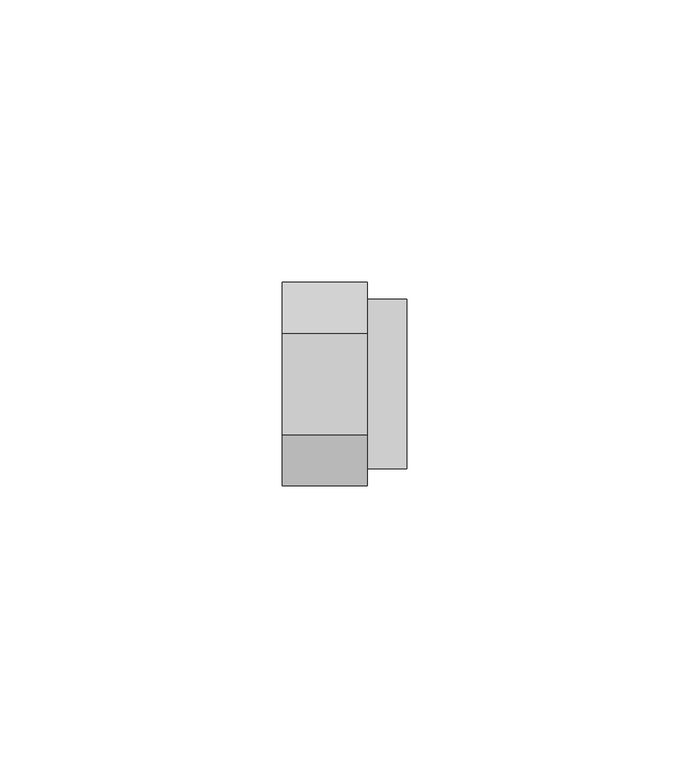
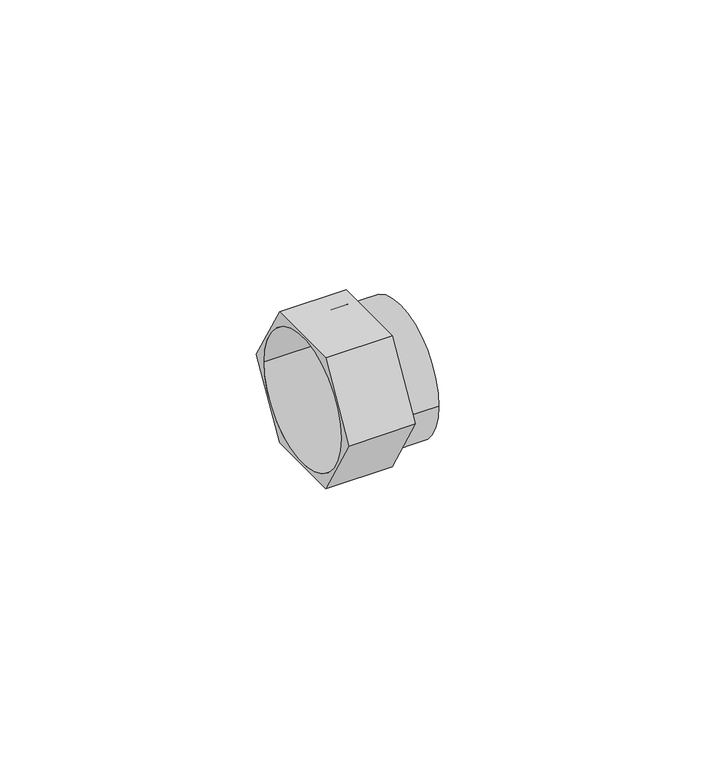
"""IFC4 building model written with IfcOpenShell, lengths in millimetres: pipe fitting geometry, БИР ПЕКС_КМП_Фитинг уплотнительный_Евроконус : Фитинг уплотнительный_Евроконус."""

import ifcopenshell
import ifcopenshell.guid

model = None  # the IFC model being written
_history = None  # IfcOwnerHistory: only IFC2X3 demands one
_inside = {}  # id of a spatial element -> (the spatial element, [elements in it])
_under = {}  # id of a project, library or spatial element -> (it, [spatial elements below it])
_declared = {}  # id of a project -> (the project, [libraries it declares])
_typed = {}  # id of a type object -> (the type object, [elements of that type])
_made_of = {}  # id of a material, layer set ... -> (it, [elements and type objects made of it])


def new_model(schema):
    """Start an empty IFC model of exactly this schema.

    Asked for "IFC4X3", IfcOpenShell would pick the latest addendum, in which some entities
    have other attributes; the version numbers below select the first issue.
    IFC2X3 requires an IfcOwnerHistory on every rooted entity: one is made here for all.
    """
    global model, _history
    if schema == "IFC4X3":
        model = ifcopenshell.file(schema_version=(4, 3, 0, 0))
    else:
        model = ifcopenshell.file(schema=schema)
    _inside.clear()
    _under.clear()
    _declared.clear()
    _typed.clear()
    _made_of.clear()
    _history = None
    if model.schema == "IFC2X3":
        org = make("IfcOrganization", Name="unknown")
        user = make(
            "IfcPersonAndOrganization",
            ThePerson=make("IfcPerson", FamilyName="unknown"),
            TheOrganization=org,
        )
        app = make(
            "IfcApplication",
            ApplicationDeveloper=org,
            Version="unknown",
            ApplicationFullName="unknown",
            ApplicationIdentifier="unknown",
        )
        _history = make(
            "IfcOwnerHistory",
            OwningUser=user,
            OwningApplication=app,
            ChangeAction="ADDED",
            CreationDate=0,
        )
    return model


def make(cls, **values):
    """One entity of the class cls with the attributes given. An attribute that is None is left unset."""
    return model.create_entity(
        cls, **{name: value for name, value in values.items() if value is not None}
    )


def rooted(cls, **values):
    """An entity with a GlobalId (a new one), such as an element, a storey or a relation."""
    return make(cls, GlobalId=ifcopenshell.guid.new(), OwnerHistory=_history, **values)


def si_unit(unit_type, name, prefix=None):
    """IfcSIUnit, for example si_unit("LENGTHUNIT", "METRE", prefix="MILLI")."""
    return make("IfcSIUnit", UnitType=unit_type, Prefix=prefix, Name=name)


def assignment(units):
    """IfcUnitAssignment: the units of a project."""
    return None if units is None else make("IfcUnitAssignment", Units=units)


def point(xyz):
    """IfcCartesianPoint."""
    return None if xyz is None else make("IfcCartesianPoint", Coordinates=xyz)


def direction(xyz):
    """IfcDirection."""
    return None if xyz is None else make("IfcDirection", DirectionRatios=xyz)


def frame(location, z_axis=None, x_axis=None):
    """IfcAxis2Placement3D, a coordinate frame: its origin and axes. An axis left out is left unset."""
    return make(
        "IfcAxis2Placement3D",
        Location=point(location),
        Axis=direction(z_axis),
        RefDirection=direction(x_axis),
    )


def frame_2d(location, x_axis=None):
    """IfcAxis2Placement2D, a coordinate frame in the plane: its origin and x axis."""
    return make(
        "IfcAxis2Placement2D", Location=point(location), RefDirection=direction(x_axis)
    )


def origin():
    """The frame at (0, 0, 0) with its axes left unset."""
    return frame((0.0, 0.0, 0.0))


def origin_2d():
    """The frame at (0, 0) in the plane with its x axis left unset."""
    return frame_2d((0.0, 0.0))


def place(relative_to, where):
    """IfcLocalPlacement: puts the frame where relative to a parent placement (None: the world)."""
    return make(
        "IfcLocalPlacement", PlacementRelTo=relative_to, RelativePlacement=where
    )


def context(
    kind, dimensions, precision=None, world=None, true_north=None, identifier=None
):
    """IfcGeometricRepresentationContext, for example the 3D "Model" context."""
    return make(
        "IfcGeometricRepresentationContext",
        ContextIdentifier=identifier,
        ContextType=kind,
        CoordinateSpaceDimension=dimensions,
        Precision=precision,
        WorldCoordinateSystem=world,
        TrueNorth=true_north,
    )


def project(units=None, contexts=None):
    """IfcProject with its units and contexts."""
    return rooted(
        "IfcProject",
        Name="project",
        RepresentationContexts=contexts,
        UnitsInContext=assignment(units),
    )


def spatial(cls, under=None, at=None, **own):
    """A site, building, storey or space (cls), placed at a placement, below another one or the project."""
    s = rooted(cls, ObjectPlacement=at, **own)
    if under is not None:
        _under.setdefault(under.id(), (under, []))[1].append(s)
    return s


def polyline(points):
    """IfcPolyline through the points."""
    return make("IfcPolyline", Points=[point(p) for p in points])


def circle_curve(where, radius):
    """IfcCircle in the frame where."""
    return make("IfcCircle", Position=where, Radius=radius)


def trimmed(basis, trim1, trim2, sense, master):
    """IfcTrimmedCurve: the piece of a basis curve between two trims."""
    return make(
        "IfcTrimmedCurve",
        BasisCurve=basis,
        Trim1=trim1,
        Trim2=trim2,
        SenseAgreement=sense,
        MasterRepresentation=master,
    )


def segment(curve, same_sense, transition):
    """IfcCompositeCurveSegment."""
    return make(
        "IfcCompositeCurveSegment",
        Transition=transition,
        SameSense=same_sense,
        ParentCurve=curve,
    )


def composite_curve(segments, self_intersect=None):
    """IfcCompositeCurve: segments joined end to end."""
    return make("IfcCompositeCurve", Segments=segments, SelfIntersect=self_intersect)


def outline(outer, holes=None, kind="AREA"):
    """IfcArbitraryClosedProfileDef: a profile drawn as a closed curve; with holes, ...WithVoids."""
    if holes is None:
        return make("IfcArbitraryClosedProfileDef", ProfileType=kind, OuterCurve=outer)
    return make(
        "IfcArbitraryProfileDefWithVoids",
        ProfileType=kind,
        OuterCurve=outer,
        InnerCurves=holes,
    )


def extrude(swept, where, along, depth):
    """IfcExtrudedAreaSolid: the profile swept, set in the frame where, extruded along a direction by depth."""
    return make(
        "IfcExtrudedAreaSolid",
        SweptArea=swept,
        Position=where,
        ExtrudedDirection=direction(along),
        Depth=depth,
    )


def shape(context_of_items, identifier, shape_type, items):
    """IfcShapeRepresentation: the items that make up one representation, for example the "Body"."""
    return make(
        "IfcShapeRepresentation",
        ContextOfItems=context_of_items,
        RepresentationIdentifier=identifier,
        RepresentationType=shape_type,
        Items=items,
    )


def source(mapping_origin, context_of_items, identifier, shape_type, items):
    """IfcRepresentationMap: a shape defined once, which mapped items show again and again."""
    return make(
        "IfcRepresentationMap",
        MappingOrigin=mapping_origin,
        MappedRepresentation=shape(context_of_items, identifier, shape_type, items),
    )


def transform(
    local_origin,
    x_axis=None,
    y_axis=None,
    z_axis=None,
    scale=None,
    scale2=None,
    scale3=None,
    uniform=True,
):
    """IfcCartesianTransformationOperator3D, or its non-uniform kind. x_axis, y_axis, z_axis: its Axis1, 2, 3."""
    if uniform:
        return make(
            "IfcCartesianTransformationOperator3D",
            Axis1=direction(x_axis),
            Axis2=direction(y_axis),
            LocalOrigin=point(local_origin),
            Scale=scale,
            Axis3=direction(z_axis),
        )
    return make(
        "IfcCartesianTransformationOperator3DnonUniform",
        Axis1=direction(x_axis),
        Axis2=direction(y_axis),
        LocalOrigin=point(local_origin),
        Scale=scale,
        Axis3=direction(z_axis),
        Scale2=scale2,
        Scale3=scale3,
    )


def mapped(mapping_source, mapping_target):
    """IfcMappedItem: shows the shape of a source again, moved by a transform."""
    return make(
        "IfcMappedItem", MappingSource=mapping_source, MappingTarget=mapping_target
    )


def made_of(thing, what):
    """Note that an element or type object is made of a material, layer set ...; save() writes the relation."""
    if what is not None:
        _made_of.setdefault(what.id(), (what, []))[1].append(thing)
    return thing


def element(
    cls,
    number,
    at=None,
    inside=None,
    cuts=None,
    type_object=None,
    material=None,
    context=None,
    identifier="Body",
    shape_type=None,
    held_by="IfcProductDefinitionShape",
    body=None,
    shapes=None,
    **own,
):
    """One element of the class cls, such as IfcWall. Its Tag is "e" and its number.

    at: its placement. inside: the storey or other place that contains it. cuts: it is an
    opening in that element (IfcRelVoidsElement). A single representation is given by context,
    identifier, shape_type and body (its items); several are given by shapes. held_by: the class
    of the entity that holds the representations. save() writes the other relations.
    """
    e = rooted(cls, Tag="e%d" % number, ObjectPlacement=at, **own)
    if body is not None:
        shapes = [shape(context, identifier, shape_type, body)]
    if shapes is not None:
        e.Representation = make(held_by, Representations=shapes)
    if inside is not None:
        _inside.setdefault(inside.id(), (inside, []))[1].append(e)
    if cuts is not None:
        rooted(
            "IfcRelVoidsElement", RelatingBuildingElement=cuts, RelatedOpeningElement=e
        )
    if type_object is not None:
        _typed.setdefault(type_object.id(), (type_object, []))[1].append(e)
    return made_of(e, material)


def aggregate(whole, parts):
    """IfcRelAggregates: a whole, such as a stair, and the parts it consists of."""
    return rooted("IfcRelAggregates", RelatingObject=whole, RelatedObjects=parts)


def save(model, path):
    """Write the relations noted so far, then the file.

    IfcRelAggregates (storeys below a building ...), IfcRelContainedInSpatialStructure (elements
    in a storey), IfcRelDefinesByType, IfcRelAssociatesMaterial and IfcRelDeclares: one each for
    every whole, place, type object, material and project.
    """
    for whole, parts in _under.values():
        aggregate(whole, parts)
    for where, things in _inside.values():
        rooted(
            "IfcRelContainedInSpatialStructure",
            RelatedElements=things,
            RelatingStructure=where,
        )
    for kind, things in _typed.values():
        rooted("IfcRelDefinesByType", RelatedObjects=things, RelatingType=kind)
    for what, things in _made_of.values():
        rooted("IfcRelAssociatesMaterial", RelatedObjects=things, RelatingMaterial=what)
    for by, libraries in _declared.values():
        rooted("IfcRelDeclares", RelatingContext=by, RelatedDefinitions=libraries)
    model.write(path)


def pipe_fitting_8d19de3b(model_context):
    return source(origin(), model_context, "Body", "SweptSolid", [
        extrude(outline(polyline([(-9.0, -15.5884573), (-18.0, 0.0), (-9.0, 15.5884573), (9.0, 15.5884573), (18.0, 0.0), (9.0, -15.5884573), (-9.0, -15.5884573)]), holes=[composite_curve([segment(trimmed(circle_curve(origin_2d(), 15.0), [point((-15.0, 0.0))], [point((15.0, 0.0))], True, "CARTESIAN"), True, "CONTINUOUS"), segment(trimmed(circle_curve(origin_2d(), 15.0), [point((15.0, 0.0))], [point((-15.0, 0.0))], True, "CARTESIAN"), True, "CONTINUOUS")], self_intersect=False)]), frame((-22.0, 0.0, 0.0), z_axis=(1.0, 0.0, 0.0), x_axis=(0.0, 1.0, 0.0)), (0.0, 0.0, 1.0), 15.0),
        extrude(outline(composite_curve([segment(trimmed(circle_curve(origin_2d(), 15.0), [point((-15.0, 0.0))], [point((15.0, 0.0))], False, "CARTESIAN"), True, "CONTINUOUS"), segment(trimmed(circle_curve(origin_2d(), 15.0), [point((15.0, 0.0))], [point((-15.0, 0.0))], False, "CARTESIAN"), True, "CONTINUOUS")], self_intersect=False), holes=[composite_curve([segment(trimmed(circle_curve(origin_2d(), 9.5), [point((-9.5, 0.0))], [point((9.5, 0.0))], True, "CARTESIAN"), True, "CONTINUOUS"), segment(trimmed(circle_curve(origin_2d(), 9.5), [point((9.5, 0.0))], [point((-9.5, 0.0))], True, "CARTESIAN"), True, "CONTINUOUS")], self_intersect=False)]), frame((-7.0, 0.0, 0.0), z_axis=(1.0, 0.0, 0.0), x_axis=(0.0, 1.0, 0.0)), (0.0, 0.0, 1.0), 7.0),
    ])


if __name__ == "__main__":
    model = new_model("IFC4")
    model_context = context("Model", 3, world=origin())
    ifc_project = project(units=[si_unit("LENGTHUNIT", "METRE", prefix="MILLI")], contexts=[model_context])
    site = spatial("IfcSite", under=ifc_project)
    building = spatial("IfcBuilding", under=site)
    placement = place(None, origin())
    pipe_fitting_shape = pipe_fitting_8d19de3b(model_context)
    element("IfcPipeFitting", 1, ObjectType="БИР ПЕКС_КМП_Фитинг уплотнительный_Евроконус : Фитинг уплотнительный_Евроконус", at=placement, inside=building, context=model_context, shape_type="MappedRepresentation", body=[
        mapped(pipe_fitting_shape, transform((0.0, 0.0, 0.0), x_axis=(1.0, 0.0, 0.0), y_axis=(0.0, 1.0, 0.0), z_axis=(0.0, 0.0, 1.0))),
    ])
    save(model, "model.ifc")
